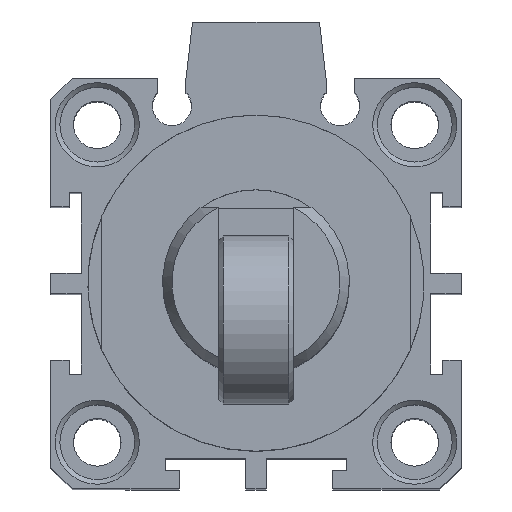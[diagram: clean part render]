
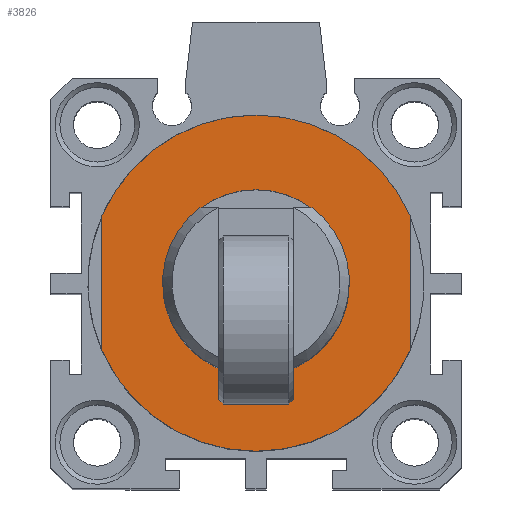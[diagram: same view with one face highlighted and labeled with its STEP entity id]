
A CAD part, top view. The second image highlights one B-rep face of the part: STEP entity #3826.
In plain terms, the highlighted planar face has unit normal (0, 0, 1).
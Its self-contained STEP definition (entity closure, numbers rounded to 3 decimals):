
#345=CARTESIAN_POINT('',(-9.726,7.88,88.0));
#346=VERTEX_POINT('',#345);
#353=CARTESIAN_POINT('',(2.274,7.88,88.0));
#354=VERTEX_POINT('',#353);
#355=CARTESIAN_POINT('',(-3.726,-0.12,88.0));
#356=DIRECTION('',(0.0,0.0,-1.0));
#357=DIRECTION('',(0.0,1.0,0.0));
#358=AXIS2_PLACEMENT_3D('',#355,#356,#357);
#359=CIRCLE('',#358,10.0);
#360=EDGE_CURVE('',#354,#346,#359,.T.);
#3372=CARTESIAN_POINT('',(12.774,-7.314,88.0));
#3373=VERTEX_POINT('',#3372);
#3380=CARTESIAN_POINT('',(-20.226,-7.314,88.0));
#3381=VERTEX_POINT('',#3380);
#3382=CARTESIAN_POINT('',(-3.726,-0.12,88.0));
#3383=DIRECTION('',(0.0,0.0,-1.0));
#3384=DIRECTION('',(0.0,1.0,0.0));
#3385=AXIS2_PLACEMENT_3D('',#3382,#3383,#3384);
#3386=CIRCLE('',#3385,18.0);
#3387=EDGE_CURVE('',#3373,#3381,#3386,.T.);
#3406=CARTESIAN_POINT('',(-20.226,7.074,88.0));
#3407=VERTEX_POINT('',#3406);
#3414=CARTESIAN_POINT('',(12.774,7.074,88.0));
#3415=VERTEX_POINT('',#3414);
#3416=CARTESIAN_POINT('',(-3.726,-0.12,88.0));
#3417=DIRECTION('',(0.0,0.0,-1.0));
#3418=DIRECTION('',(0.0,1.0,0.0));
#3419=AXIS2_PLACEMENT_3D('',#3416,#3417,#3418);
#3420=CIRCLE('',#3419,18.0);
#3421=EDGE_CURVE('',#3407,#3415,#3420,.T.);
#3795=CARTESIAN_POINT('',(-3.726,13.88,88.0));
#3796=DIRECTION('',(0.0,0.0,1.0));
#3797=DIRECTION('',(1.0,0.0,0.0));
#3798=AXIS2_PLACEMENT_3D('',#3795,#3796,#3797);
#3799=PLANE('',#3798);
#3800=CARTESIAN_POINT('',(12.774,-7.314,88.0));
#3801=DIRECTION('',(0.0,1.0,0.0));
#3802=VECTOR('',#3801,14.387);
#3803=LINE('',#3800,#3802);
#3804=EDGE_CURVE('',#3373,#3415,#3803,.T.);
#3805=ORIENTED_EDGE('',*,*,#3804,.T.);
#3806=ORIENTED_EDGE('',*,*,#3421,.F.);
#3807=CARTESIAN_POINT('',(-20.226,7.074,88.0));
#3808=DIRECTION('',(0.0,-1.0,0.0));
#3809=VECTOR('',#3808,14.387);
#3810=LINE('',#3807,#3809);
#3811=EDGE_CURVE('',#3407,#3381,#3810,.T.);
#3812=ORIENTED_EDGE('',*,*,#3811,.T.);
#3813=ORIENTED_EDGE('',*,*,#3387,.F.);
#3814=EDGE_LOOP('',(#3805,#3806,#3812,#3813));
#3815=FACE_OUTER_BOUND('',#3814,.T.);
#3816=CARTESIAN_POINT('',(-3.726,-0.12,88.0));
#3817=DIRECTION('',(0.0,0.0,-1.0));
#3818=DIRECTION('',(0.0,1.0,0.0));
#3819=AXIS2_PLACEMENT_3D('',#3816,#3817,#3818);
#3820=CIRCLE('',#3819,10.0);
#3821=EDGE_CURVE('',#346,#354,#3820,.T.);
#3822=ORIENTED_EDGE('',*,*,#3821,.T.);
#3823=ORIENTED_EDGE('',*,*,#360,.T.);
#3824=EDGE_LOOP('',(#3822,#3823));
#3825=FACE_BOUND('',#3824,.T.);
#3826=ADVANCED_FACE('',(#3815,#3825),#3799,.T.);
